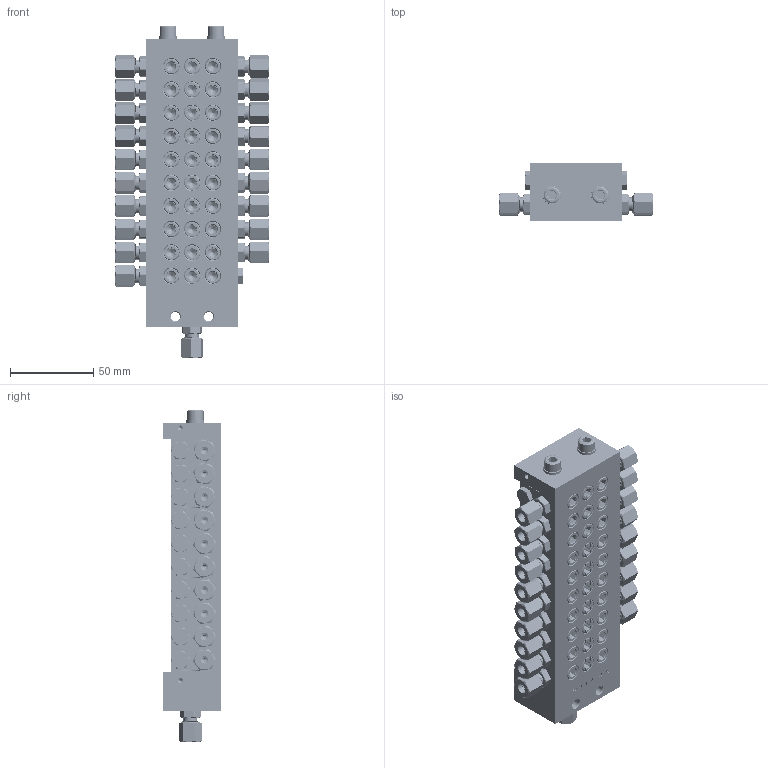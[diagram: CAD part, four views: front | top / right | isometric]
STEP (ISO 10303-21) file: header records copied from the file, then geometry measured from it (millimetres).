
FILE_DESCRIPTION (( 'STEP AP214' ), '1' );
FILE_NAME ('STW_XV_0143_19_0501_19_Auslässe.STEP', '2026-02-04T10:03:04', ( '' ), ( '' ), 'SwSTEP 2.0', 'SolidWorks 2022', '' );
FILE_SCHEMA (( 'AUTOMOTIVE_DESIGN' ));
Length unit declared in the file: millimetre
Products named in the file (15): STW_XV_MITTEL_1; STW_XV_ENGANG; STW_XV_END; U_Scheibe_6; Verschlussstopfen_1_8; STW_XV_Kolbenanschlag; Verschlussstopfen_1_8_2; STW_XV_0143_19_0501_19_Auslässe; 991214010601_Schneidring; 991214010601; 991214010601_Koerper; 991214010601_Mutter; XV_Mittelelement; STW_XV_Verbindungsstopen; M6X65_DIN_912
Assembly tree (61 placements, depth 3):
  STW_XV_0143_19_0501_19_Auslässe
    STW_XV_ENGANG
    STW_XV_MITTEL_1  x3
    STW_XV_END
    Verschlussstopfen_1_8_2  x6
    STW_XV_Kolbenanschlag  x6
    STW_XV_Verbindungsstopen  x3
    M6X65_DIN_912  x2
    U_Scheibe_6  x2
    991214010601  x20
      991214010601_Koerper
      991214010601_Schneidring
      991214010601_Mutter
    XV_Mittelelement  x7
      STW_XV_MITTEL_1
      STW_XV_Kolbenanschlag
      Verschlussstopfen_1_8_2
      STW_XV_Verbindungsstopen
    Verschlussstopfen_1_8
Bounding box: 92.76 x 35 x 199.68 mm (x, y, z)
Volume: 307642.1 mm3; surface area: 188943.4 mm2
Topology: 127 solids, 127 shells, 3970 faces, 10039 edges, 6440 vertices
Faces by surface type: plane 1776, cylinder 1239, cone 719, bspline 216, torus 20
Full cylindrical faces by diameter (mm): 2 x257, 3 x17, 4.5 x20, 5 x101, 5.5 x2, 5.9 x2, 6 x22, 6.2 x42, 6.4 x2, 6.5 x20, 7 x20, 7.4 x20, 7.67 x20, 8 x40, 8.3 x20, 8.4 x10, 8.6 x50, 9 x41, 9.7 x21, 9.73 x10, 9.8 x140, 10 x22, 11 x2, 15 x1
Entity records: 41546 total; most frequent: CARTESIAN_POINT 20649, ORIENTED_EDGE 2808, DIRECTION 2435, EDGE_CURVE 1404, VERTEX_POINT 997, EDGE_LOOP 925, AXIS2_PLACEMENT_3D 859, FACE_OUTER_BOUND 744
